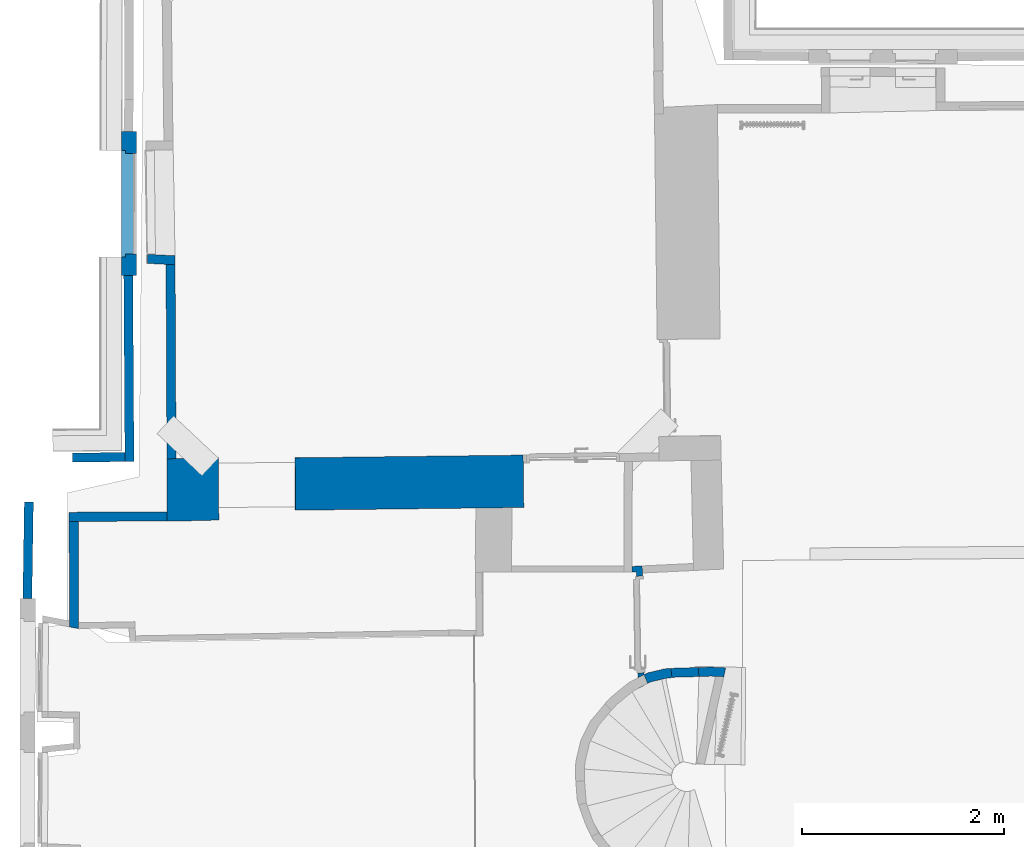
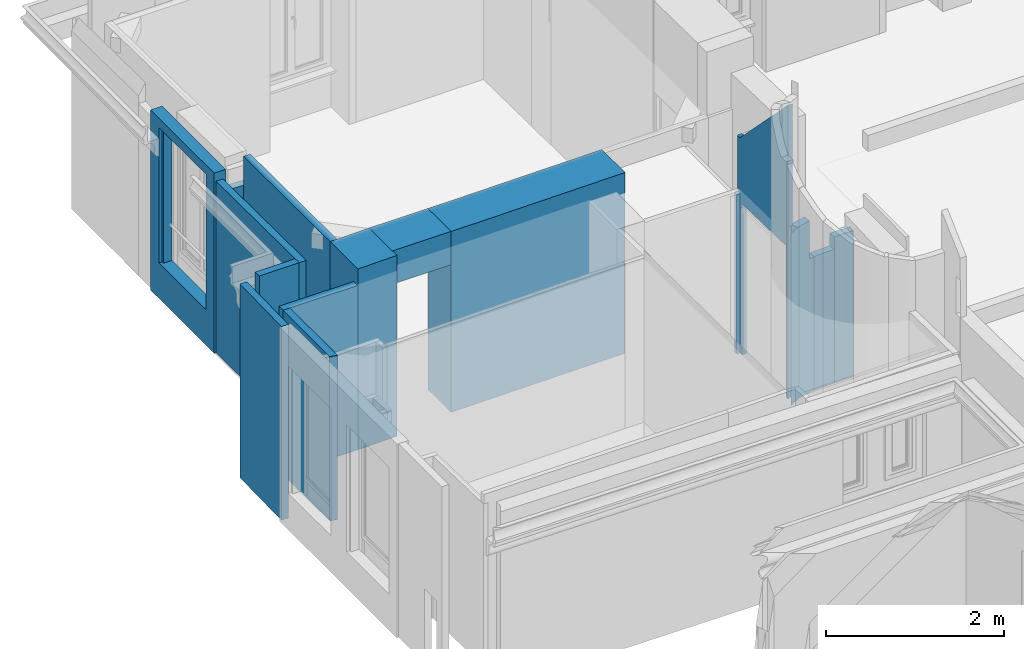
# One storey, part 11 of 72: 15 walls, 3 openings.
"""IFC2X3 building model written with IfcOpenShell, lengths in centimetres."""

from ifc_helpers import new_model, entity, si_unit, converted_unit, direction, frame, origin, origin_with_axes, origin_2d_with_axis, place, context, subcontext, project, spatial, polyline, rectangle, outline, extrude, clip, bounded_halfspace, faceted_brep, shape, material, layer, layer_set, layer_usage, type_object, element, save


model = new_model("IFC2X3")

# Units and contexts
model_context = context("Model", 3, precision=0.0001, world=origin(), true_north=direction((0.225632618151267, 0.974212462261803, 0.0)))
body_context = subcontext(model_context, "Body", "Model", "MODEL_VIEW")
footprint_context = subcontext(model_context, "FootPrint", "Model", "MODEL_VIEW")
profile_context = subcontext(model_context, "Profile", "Model", "MODEL_VIEW")
ifc_project = project(units=[si_unit("LENGTHUNIT", "METRE", prefix="CENTI"), si_unit("AREAUNIT", "SQUARE_METRE", prefix="CENTI"), si_unit("VOLUMEUNIT", "CUBIC_METRE", prefix="CENTI"), converted_unit("PLANEANGLEUNIT", "DEGREE", entity("IfcRatioMeasure", 0.0174532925), si_unit("PLANEANGLEUNIT", "RADIAN"), dimensions=[0, 0, 0, 0, 0, 0, 0])], contexts=[model_context])

# Site, building, storey
site_placement = place(None, origin_with_axes())
site = spatial("IfcSite", under=ifc_project, at=site_placement, Name="Default Site", CompositionType="ELEMENT")
building_placement = place(site_placement, origin_with_axes())
building = spatial("IfcBuilding", under=site, at=building_placement, Name="Default Building", CompositionType="ELEMENT")
storey_placement = place(building_placement, frame((0.0, 0.0, 853.910374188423), z_axis=(0.0, 0.0, 1.0), x_axis=(1.0, 0.0, 0.0)))
storey = spatial("IfcBuildingStorey", under=building, at=storey_placement, Name="Niveau 2", CompositionType="ELEMENT", Elevation=853.910374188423)

# Walls
ifc_material = material(Name="<aucun>")
ifc_layer_1 = layer(ifc_material, 9.0)
ifc_layer_set_1 = layer_set([ifc_layer_1], Name="default")
ifc_layer_usage_1 = layer_usage(ifc_layer_set_1, "AXIS2", "POSITIVE", -4.5)
wall_type_1 = type_object("IfcWallType", Name="default 90", PredefinedType="NOTDEFINED", material=ifc_layer_set_1)
wall_1_placement = place(storey_placement, frame((-1251.93598353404, 212.431751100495, -1.95399252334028e-11), z_axis=(0.0, 0.0, 1.0), x_axis=(-0.00651672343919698, 0.999978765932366, 0.0)))
element("IfcWallStandardCase", 1, at=wall_1_placement, inside=storey, type_object=wall_type_1, material=ifc_layer_usage_1, Name="Enveloppe 465458", context=body_context, shape_type="SweptSolid", body=[
    extrude(outline(polyline([(175.481486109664, 4.50000000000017), (-9.00000255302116, 4.49999999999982), (-8.99322358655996, -4.50000000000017), (175.41465082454, -4.49999999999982), (175.481486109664, 4.50000000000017)])), frame((0.0, 0.0, 2.00728322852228e-11), z_axis=(0.0, 0.0, 1.0), x_axis=(1.0, 0.0, 0.0)), (0.0, 0.0, 1.0), 234.999999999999),
])
ifc_layer_usage_2 = layer_usage(ifc_layer_set_1, "AXIS2", "POSITIVE", -4.5)
wall_2_placement = place(storey_placement, frame((-1308.29371832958, 207.525294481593, -1.95399252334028e-11), z_axis=(0.0, 0.0, 1.0), x_axis=(0.999973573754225, 0.00726992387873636, 0.0)))
element("IfcWallStandardCase", 2, at=wall_2_placement, inside=storey, type_object=wall_type_1, material=ifc_layer_usage_2, Name="Enveloppe 465557", context=body_context, shape_type="SweptSolid", body=[
    extrude(rectangle(XDim=51.8923526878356, YDim=9.00000000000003, at=origin_2d_with_axis()), frame((25.9389610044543, 2.22044604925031e-13, 1.97175609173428e-11), z_axis=(0.0, 0.0, 1.0), x_axis=(1.0, 9.62945001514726e-15, 0.0)), (0.0, 0.0, 1.0), 234.999999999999),
])
ifc_layer_usage_3 = layer_usage(ifc_layer_set_1, "AXIS2", "POSITIVE", -4.5)
wall_3_placement = place(storey_placement, frame((-1353.18737963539, 67.6854363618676, -1.95399252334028e-11), z_axis=(0.0, 0.0, 1.0), x_axis=(0.0153470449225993, 0.999882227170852, 0.0)))
element("IfcWallStandardCase", 3, at=wall_3_placement, inside=storey, type_object=wall_type_1, material=ifc_layer_usage_3, Name="Enveloppe 465560", context=body_context, shape_type="SweptSolid", body=[
    extrude(rectangle(XDim=95.506273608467, YDim=8.99999999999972, at=origin_2d_with_axis()), frame((47.8456041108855, -1.77635683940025e-13, 1.95399252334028e-11), z_axis=(0.0, 0.0, 1.0), x_axis=(1.0, 1.01307850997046e-15, 0.0)), (0.0, 0.0, 1.0), 265.06162581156),
])
ifc_layer_usage_4 = layer_usage(ifc_layer_set_1, "AXIS2", "POSITIVE", -4.5)
wall_4_placement = place(storey_placement, frame((-1307.04795892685, 43.6024883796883, 1.4210854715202e-12), z_axis=(0.0, 0.0, 1.0), x_axis=(-0.00131156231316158, 0.999999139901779, 0.0)))
element("IfcWallStandardCase", 4, at=wall_4_placement, inside=storey, type_object=wall_type_1, material=ifc_layer_usage_4, Name="Enveloppe 175458", context=body_context, shape_type="SweptSolid", body=[
    extrude(outline(polyline([(100.57424873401, 4.50000000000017), (-4.18508499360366, 4.49999999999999), (-5.92331710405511, -4.49999999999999), (100.578192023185, -4.50000000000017), (100.57424873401, 4.50000000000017)])), origin_with_axes(), (0.0, 0.0, 1.0), 224.999999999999),
])
ifc_layer_usage_5 = layer_usage(ifc_layer_set_1, "AXIS2", "POSITIVE", -4.5)
wall_5_placement = place(storey_placement, frame((-1206.89089465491, 403.230010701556, 1.4210854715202e-12), z_axis=(0.0, 0.0, 1.0), x_axis=(-0.998741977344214, 0.0501444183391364, 0.0)))
element("IfcWallStandardCase", 5, at=wall_5_placement, inside=storey, type_object=wall_type_1, material=ifc_layer_usage_5, Name="Enveloppe 170929", context=body_context, shape_type="SweptSolid", body=[
    extrude(outline(polyline([(27.4683223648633, -4.49673180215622), (26.912696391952, 4.4999999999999), (-0.527595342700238, 4.49999999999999), (-0.033914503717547, -4.49999999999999), (27.4683223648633, -4.49673180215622)])), frame((0.0, 0.0, -3.5527136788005e-13), z_axis=(0.0, 0.0, 1.0), x_axis=(1.0, 0.0, 0.0)), (0.0, 0.0, 1.0), 208.0),
])
ifc_layer_usage_6 = layer_usage(ifc_layer_set_1, "AXIS2", "POSITIVE", -4.5)
wall_6_placement = place(storey_placement, frame((-1210.18826970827, 204.153906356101, 1.4210854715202e-12), z_axis=(0.0, 0.0, 1.0), x_axis=(-0.00463303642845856, 0.999989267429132, 0.0)))
element("IfcWallStandardCase", 6, at=wall_6_placement, inside=storey, type_object=wall_type_1, material=ifc_layer_usage_6, Name="Enveloppe 170989", context=body_context, shape_type="Clipping", body=[
    clip(clip(extrude(outline(polyline([(195.030229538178, 4.50000000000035), (2.00936268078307, 4.49999999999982), (2.1991618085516, -4.50000000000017), (195.030229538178, -4.49999999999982), (195.030229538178, 4.50000000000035)])), frame((0.0, 0.0, -8.88178419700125e-13), z_axis=(0.0, 0.0, 1.0), x_axis=(1.0, 0.0, 0.0)), (0.0, 0.0, 1.0), 247.499999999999), bounded_halfspace(frame((195.030229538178, -4.49999999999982, 208.0), z_axis=(0.0, 0.0, 1.0), x_axis=(-1.0, 4.60343568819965e-14, 0.0)), True, frame((195.030229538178, -4.49999999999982, 208.0), z_axis=(0.0, 0.0, 1.0), x_axis=(1.0, 0.0, 0.0)), polyline([(-0.49368083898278, 1.77635683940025e-13), (1.77635683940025e-13, 9.00000000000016), (8.88178419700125e-14, -1.77635683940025e-13), (-0.49368083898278, 1.77635683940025e-13)]))), bounded_halfspace(frame((172.827004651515, 2.21719963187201, 208.999999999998), z_axis=(0.0, 0.0, -1.0), x_axis=(-0.999999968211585, -0.000252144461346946, 0.0)), True, frame((172.827004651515, 2.21719963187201, 208.999999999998), z_axis=(0.0, 0.0, 1.0), x_axis=(1.0, 0.0, 0.0)), polyline([(-25.7479031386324, -0.00649219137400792), (-0.0241717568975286, -0.247229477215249), (4.44089209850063e-14, 0.0), (-25.7479031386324, -0.00649219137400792)]))),
])
ifc_layer_usage_7 = layer_usage(ifc_layer_set_1, "AXIS2", "POSITIVE", -4.5)
wall_7_placement = place(storey_placement, frame((-1311.70093378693, 148.670718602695, 1.4210854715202e-12), z_axis=(0.0, 0.0, 1.0), x_axis=(0.999998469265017, 0.00174970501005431, 0.0)))
element("IfcWallStandardCase", 7, at=wall_7_placement, inside=storey, type_object=wall_type_1, material=ifc_layer_usage_7, Name="Enveloppe 171171", context=body_context, shape_type="SweptSolid", body=[
    extrude(rectangle(XDim=97.0964109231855, YDim=9.00000086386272, at=origin_2d_with_axis()), frame((48.5633727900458, 1.55431223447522e-13, -3.5527136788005e-13), z_axis=(0.0, 0.0, 1.0), x_axis=(1.0, 3.10623922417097e-15, 0.0)), (0.0, 0.0, 1.0), 224.999999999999),
])

# Wall, opening
ifc_layer_2 = layer(ifc_material, 6.0)
ifc_layer_set_2 = layer_set([ifc_layer_2], Name="default")
ifc_layer_usage_8 = layer_usage(ifc_layer_set_2, "AXIS2", "POSITIVE", -3.0)
wall_type_2 = type_object("IfcWallType", Name="default 60", PredefinedType="NOTDEFINED", material=ifc_layer_set_2)
wall_8_placement = place(storey_placement, frame((-744.302139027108, -10.5297326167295, 1.4210854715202e-12), z_axis=(0.0, 0.0, 1.0), x_axis=(-0.0149497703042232, 0.999888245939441, 0.0)))
solid = clip(clip(clip(clip(clip(clip(clip(clip(extrude(outline(polyline([(104.583123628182, 7.38163685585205), (104.52430405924, 3.00000000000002), (-0.583966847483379, 3.00000000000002), (0.0, 1.84837923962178), (2.77555756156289e-15, -3.00000000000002), (110.444300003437, -3.00000000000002), (110.52484465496, 3.00000000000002), (110.246339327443, 3.00000000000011), (110.10617780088, 7.28036396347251), (104.583123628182, 7.38163685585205)])), frame((0.0, 0.0, -1.06581410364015e-12), z_axis=(0.0, 0.0, 1.0), x_axis=(1.0, 0.0, 0.0)), (0.0, 0.0, 1.0), 402.104750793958), bounded_halfspace(frame((110.444300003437, -3.00000000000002, 218.5), z_axis=(0.0, 0.0, 1.0), x_axis=(-0.0392157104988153, 0.99923076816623, 0.0)), True, frame((110.444300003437, -3.00000000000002, 218.5), z_axis=(0.0, 0.0, 1.0), x_axis=(1.0, 0.0, 0.0)), polyline([(-0.197960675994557, 6.00000000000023), (0.0805446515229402, 6.00000000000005), (2.22044604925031e-14, 0.0), (-0.197960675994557, 6.00000000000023)]))), bounded_halfspace(frame((110.435309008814, -2.7709061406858, 218.5), z_axis=(0.0, 0.0, 1.0), x_axis=(0.0392157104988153, -0.99923076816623, 0.0)), True, frame((110.435309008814, -2.7709061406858, 218.5), z_axis=(0.0, 0.0, 1.0), x_axis=(1.0, 0.0, 0.0)), polyline([(-5.91100494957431, -0.229093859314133), (-5.91100494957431, -0.193557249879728), (4.44089209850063e-14, 0.0), (0.00899099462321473, -0.229093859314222), (-5.91100494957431, -0.229093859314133)]))), bounded_halfspace(frame((104.52430405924, -2.99999999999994, 218.5), z_axis=(0.0, 0.0, 1.0), x_axis=(-1.0, -1.23340573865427e-13, 0.0)), True, frame((104.52430405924, -2.99999999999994, 218.5), z_axis=(0.0, 0.0, 1.0), x_axis=(1.0, 0.0, 0.0)), polyline([(-1.08524518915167, -8.88178419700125e-14), (4.44089209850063e-14, 0.0355366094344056), (4.44089209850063e-14, 0.0), (-1.08524518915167, -8.88178419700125e-14)]))), bounded_halfspace(frame((2.45852874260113, -3.00000000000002, 234.999999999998), z_axis=(0.0, 0.0, 1.0), x_axis=(-1.0, -2.56382241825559e-12, 0.0)), True, frame((2.45852874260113, -3.00000000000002, 234.999999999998), z_axis=(0.0, 0.0, 1.0), x_axis=(1.0, 0.0, 0.0)), polyline([(-2.45852874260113, 0.0), (-2.45852874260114, 4.8483792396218), (1.38777878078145e-15, 0.0), (-2.45852874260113, 0.0)]))), bounded_halfspace(frame((-1.38777878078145e-15, 3.00000000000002, 402.104750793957), z_axis=(-0.716643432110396, -1.52655665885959e-16, -0.697439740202), x_axis=(-1.54390389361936e-16, -1.0, 0.0)), True, frame((-1.38777878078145e-15, 3.00000000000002, 402.104750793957), z_axis=(0.0, 0.0, 1.0), x_axis=(1.0, 0.0, 0.0)), polyline([(0.0, -1.15162076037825), (2.45852874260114, -6.00000000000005), (103.439058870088, -6.00000000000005), (104.52430405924, -5.96446339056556), (104.52430405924, 8.88178419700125e-14), (0.0, 8.88178419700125e-14), (0.0, -1.15162076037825)]))), bounded_halfspace(frame((-1.38777878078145e-15, 1.84837923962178, 234.999999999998), z_axis=(0.0, 0.0, -1.0), x_axis=(1.54390389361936e-16, 1.0, 0.0)), True, frame((-1.38777878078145e-15, 1.84837923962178, 234.999999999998), z_axis=(0.0, 0.0, 1.0), x_axis=(1.0, 0.0, 0.0)), polyline([(-0.583966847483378, 1.15162076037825), (0.0, 0.0), (0.0, 1.15162076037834), (-0.583966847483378, 1.15162076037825)]))), bounded_halfspace(frame((110.246339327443, 3.00000000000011, 294.70241668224), z_axis=(0.0, 0.0, -1.0), x_axis=(-1.0, -1.50834206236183e-14, 0.0)), True, frame((110.246339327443, 3.00000000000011, 294.70241668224), z_axis=(0.0, 0.0, 1.0), x_axis=(1.0, 0.0, 0.0)), polyline([(-5.72203526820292, -5.96446339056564), (0.188969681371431, -5.77090614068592), (2.22044604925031e-14, 8.88178419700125e-14), (-5.72203526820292, 0.0), (-5.72203526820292, -5.96446339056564)]))), bounded_halfspace(frame((104.583123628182, 7.38163685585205, 218.5), z_axis=(0.0, 0.0, -1.0), x_axis=(-0.0134228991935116, -0.999909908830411, 0.0)), True, frame((104.583123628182, 7.38163685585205, 218.5), z_axis=(0.0, 0.0, 1.0), x_axis=(1.0, 0.0, 0.0)), polyline([(-0.0588195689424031, -4.38163685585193), (5.66321569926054, -4.38163685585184), (5.52305417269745, -0.101272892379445), (2.22044604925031e-14, 0.0), (-0.0588195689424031, -4.38163685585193)])))
wall_8 = element("IfcWallStandardCase", 8, at=wall_8_placement, inside=storey, type_object=wall_type_2, material=ifc_layer_usage_8, Name="Enveloppe 170343", context=body_context, shape_type="Clipping", body=[
    clip(clip(clip(clip(solid, bounded_halfspace(frame((110.52484465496, 3.00000000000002, 294.70241668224), z_axis=(0.0, 0.0, -1.0), x_axis=(-1.0, 2.80477030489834e-13, 0.0)), True, frame((110.52484465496, 3.00000000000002, 294.70241668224), z_axis=(0.0, 0.0, 1.0), x_axis=(1.0, 0.0, 0.0)), polyline([(-0.278505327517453, 1.77635683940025e-13), (-0.0805446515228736, -6.00000000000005), (4.44089209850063e-14, 0.0), (-0.278505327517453, 1.77635683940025e-13)]))), bounded_halfspace(frame((104.52430405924, -2.96446339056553, 294.70241668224), z_axis=(0.0, 0.0, -1.0), x_axis=(-4.9212370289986e-13, -1.0, 0.0)), True, frame((104.52430405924, -2.96446339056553, 294.70241668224), z_axis=(0.0, 0.0, 1.0), x_axis=(1.0, 0.0, 0.0)), polyline([(4.44089209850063e-14, -0.0355366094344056), (5.91999594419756, -0.0355366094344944), (5.91100494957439, 0.193557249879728), (4.44089209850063e-14, 0.0), (4.44089209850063e-14, -0.0355366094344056)]))), bounded_halfspace(frame((103.439058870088, -3.00000000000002, 295.81754361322), z_axis=(-0.716643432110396, -1.52655665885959e-16, -0.697439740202), x_axis=(-0.697257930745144, -0.0228318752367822, 0.716456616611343)), True, frame((103.439058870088, -3.00000000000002, 295.81754361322), z_axis=(0.0, 0.0, 1.0), x_axis=(1.0, 0.0, 0.0)), polyline([(2.22044604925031e-14, 0.0), (1.08524518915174, 8.88178419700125e-14), (1.08524518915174, 0.0355366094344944), (2.22044604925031e-14, 0.0)]))), bounded_halfspace(frame((-1.38777878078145e-15, 1.84837923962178, 402.104750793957), z_axis=(-0.716643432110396, -1.52655665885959e-16, -0.697439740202), x_axis=(3.08780778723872e-16, -1.0, 0.0)), True, frame((-1.38777878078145e-15, 1.84837923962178, 402.104750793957), z_axis=(0.0, 0.0, 1.0), x_axis=(1.0, 0.0, 0.0)), polyline([(4.16333634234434e-15, -4.8483792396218), (2.45852874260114, -4.8483792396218), (0.0, 0.0), (4.16333634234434e-15, -4.8483792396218)]))),
])
opening_1_placement = place(wall_8_placement, frame((4.42519617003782, 0.0, -3.5527136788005e-13), z_axis=(0.0, 0.0, 1.0), x_axis=(1.0, 2.09901540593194e-16, 0.0)))
cartesian_point_1 = entity("IfcCartesianPoint", [1.31838984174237e-14, 0.0, 207.0])
cartesian_point_2 = entity("IfcCartesianPoint", [95.8094159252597, 3.00000000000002])
element("IfcOpeningElement", 9, at=opening_1_placement, cuts=wall_8, Name="4294966377_11", ObjectType="Opening", shapes=[
    shape(body_context, "Body", "SweptSolid", [extrude(outline(polyline([(1.38777878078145e-14, 207.0), (1.38777878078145e-15, 0.0), (95.8094159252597, 0.0), (95.8094159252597, 207.0), (1.38777878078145e-14, 207.0)])), frame((0.0, 13.0, 0.0), z_axis=(0.0, -1.0, 0.0), x_axis=(1.0, 0.0, 0.0)), (0.0, 0.0, 1.0), 26.0)]),
    shape(profile_context, "Profile", "GeometricCurveSet", [entity("IfcGeometricCurveSet", [entity("IfcPolyline", [cartesian_point_1, entity("IfcCartesianPoint", [6.93889390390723e-16, 0.0, 0.0]), entity("IfcCartesianPoint", [95.8094159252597, 8.88178419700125e-14, 0.0]), entity("IfcCartesianPoint", [95.8094159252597, 8.88178419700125e-14, 207.0]), cartesian_point_1])])]),
    shape(footprint_context, "FootPrint", "GeometricCurveSet", [entity("IfcGeometricCurveSet", [entity("IfcPolyline", [cartesian_point_2, entity("IfcCartesianPoint", [1.38777878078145e-15, 3.00000000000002]), entity("IfcCartesianPoint", [-6.93889390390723e-16, -3.00000000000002]), entity("IfcCartesianPoint", [95.8094159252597, -3.00000000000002]), cartesian_point_2])])]),
])

ifc_layer_3 = layer(ifc_material, 15.0)
ifc_layer_set_3 = layer_set([ifc_layer_3], Name="default")
ifc_layer_usage_9 = layer_usage(ifc_layer_set_3, "AXIS2", "POSITIVE", -7.5)
wall_type_3 = type_object("IfcWallType", Name="default 150", PredefinedType="NOTDEFINED", material=ifc_layer_set_3)
wall_9_placement = place(storey_placement, frame((-1252.3263199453, 387.875409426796, -1.95399252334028e-11), z_axis=(0.0, 0.0, 1.0), x_axis=(0.000909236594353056, 0.999999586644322, 0.0)))
wall_9 = element("IfcWallStandardCase", 10, at=wall_9_placement, inside=storey, type_object=wall_type_3, material=ifc_layer_usage_9, Name="Enveloppe 744796", context=body_context, shape_type="SweptSolid", body=[
    extrude(rectangle(XDim=142.891550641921, YDim=14.9999999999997, at=origin_2d_with_axis()), frame((71.4457753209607, 1.77635683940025e-13, 1.98951966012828e-11), z_axis=(0.0, 0.0, 1.0), x_axis=(1.0, -6.78168458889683e-16, 0.0)), (0.0, 0.0, 1.0), 246.74203441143),
])
opening_2_placement = place(wall_9_placement, frame((18.3750161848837, 0.0, 48.6953602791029), z_axis=(0.0, 0.0, 1.0), x_axis=(1.0, 5.64977752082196e-16, 0.0)))
cartesian_point_3 = entity("IfcCartesianPoint", [0.0, 1.77635683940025e-13, 185.190560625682])
cartesian_point_4 = entity("IfcCartesianPoint", [105.688399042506, 7.49999999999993])
element("IfcOpeningElement", 11, at=opening_2_placement, cuts=wall_9, Name="Baie 745940", ObjectType="Opening", shapes=[
    shape(body_context, "Body", "Brep", [faceted_brep([(-6.57386030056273e-06, 27.4999689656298, 185.190572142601), (105.688418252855, 27.4999689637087, 185.190572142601), (105.688418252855, 27.4999689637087, -1.01327895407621e-05), (-6.57386030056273e-06, 27.4999689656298, -1.01327895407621e-05), (3.000003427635, -27.5000154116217, -1.01327895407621e-05), (102.688383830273, -27.5000154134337, -1.01327895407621e-05), (102.688383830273, -27.5000154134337, 185.190572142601), (3.000003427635, -27.5000154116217, 185.190572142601), (3.00000342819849, 3.50003935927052, 185.190572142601), (3.00000342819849, 3.50003935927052, -1.01327895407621e-05), (2.99999811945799, 3.50003935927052, -1.01327895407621e-05), (2.99999811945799, 3.50003935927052, 185.190572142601), (2.36344711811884e-05, 3.50003935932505, 185.190572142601), (2.36344711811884e-05, 3.50003935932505, -1.01327895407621e-05), (2.36344711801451e-05, 3.49998196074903, -1.01327895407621e-05), (2.36344711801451e-05, 3.49998196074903, 185.190572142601), (2.36349074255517e-05, 27.4999689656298, 185.190572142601), (2.36349074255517e-05, 27.4999689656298, -1.01327895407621e-05), (102.688383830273, -27.4999741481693, -1.01327895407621e-05), (105.688418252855, 27.5000297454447, -1.01327895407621e-05), (105.688400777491, 3.50004269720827, -1.01327895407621e-05), (102.688378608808, 3.49998525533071, -1.01327895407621e-05), (102.688383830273, -27.4999741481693, 185.190572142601), (102.688383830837, 3.49998525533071, -1.01327895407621e-05), (102.688383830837, 3.49998525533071, 185.190572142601), (102.688378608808, 3.49998525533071, 185.190572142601), (105.688400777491, 3.49998525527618, -1.01327895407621e-05), (105.688400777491, 3.49998525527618, 185.190572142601), (105.688400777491, 3.50004269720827, 185.190572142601), (105.688400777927, 27.5000297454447, -1.01327895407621e-05), (105.688400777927, 27.5000297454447, 185.190572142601), (105.688418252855, 27.5000297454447, 185.190572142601)], [[[0, 1, 2, 3]], [[4, 5, 6, 7]], [[4, 7, 8, 9]], [[10, 11, 12, 13]], [[14, 15, 16, 17]], [[18, 4, 10, 14, 3, 19, 20, 21]], [[22, 18, 23, 24]], [[25, 21, 26, 27]], [[28, 20, 29, 30]], [[25, 28, 31, 0, 15, 11, 7, 22]]])]),
    shape(profile_context, "Profile", "GeometricCurveSet", [entity("IfcGeometricCurveSet", [entity("IfcPolyline", [cartesian_point_3, entity("IfcCartesianPoint", [0.0, 1.77635683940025e-13, 0.0]), entity("IfcCartesianPoint", [105.688399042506, 0.0, 0.0]), entity("IfcCartesianPoint", [105.688399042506, 0.0, 185.190560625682]), cartesian_point_3])])]),
    shape(footprint_context, "FootPrint", "GeometricCurveSet", [entity("IfcGeometricCurveSet", [entity("IfcPolyline", [cartesian_point_4, entity("IfcCartesianPoint", [0.0, 7.50000000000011]), entity("IfcCartesianPoint", [-8.88178419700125e-14, -7.49999999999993]), entity("IfcCartesianPoint", [105.688399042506, -7.49999999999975]), cartesian_point_4])])]),
])

# Walls
ifc_layer_4 = layer(ifc_material, 62.0)
ifc_layer_set_4 = layer_set([ifc_layer_4], Name="default")
ifc_layer_usage_10 = layer_usage(ifc_layer_set_4, "AXIS2", "POSITIVE", -31.0)
wall_type_4 = type_object("IfcWallType", Name="default 620", PredefinedType="NOTDEFINED", material=ifc_layer_set_4)
wall_10_placement = place(storey_placement, frame((-1209.05295596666, 175.277346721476, 1.4210854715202e-12), z_axis=(0.0, 0.0, 1.0), x_axis=(0.999669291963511, 0.0257158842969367, 0.0)))
element("IfcWallStandardCase", 12, at=wall_10_placement, inside=storey, type_object=wall_type_4, material=ifc_layer_usage_10, Name="Enveloppe 171080", context=body_context, shape_type="Clipping", body=[
    clip(clip(extrude(outline(polyline([(-4.8489860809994, 31.0), (-6.32438196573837, -30.7842515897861), (-6.15203620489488, -30.7886850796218), (-6.15649118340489, -31.0), (45.1426348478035, -31.0), (45.1426348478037, -21.0149409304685), (46.3889042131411, 30.9701224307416), (45.1426348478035, 31.0), (-4.8489860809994, 31.0)])), frame((0.0, 0.0, -8.88178419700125e-13), z_axis=(0.0, 0.0, 1.0), x_axis=(1.0, 0.0, 0.0)), (0.0, 0.0, 1.0), 247.499999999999), bounded_halfspace(frame((-6.15649118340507, -31.0, 224.999999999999), z_axis=(0.0, 0.0, 1.0), x_axis=(0.0210841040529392, 0.999777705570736, 0.0)), True, frame((-6.15649118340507, -31.0, 224.999999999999), z_axis=(0.0, 0.0, 1.0), x_axis=(1.0, 0.0, 0.0)), polyline([(0.0, 0.0), (0.00446273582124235, 0.211616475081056), (8.83152386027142, 2.22044604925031e-14), (0.0, 0.0)]))), bounded_halfspace(frame((-6.32438196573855, -30.7842515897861, 224.999999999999), z_axis=(0.0, 0.0, -1.0), x_axis=(0.999712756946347, -0.0239667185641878, 0.0)), True, frame((-6.32438196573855, -30.7842515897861, 224.999999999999), z_axis=(0.0, 0.0, 1.0), x_axis=(1.0, 0.0, 0.0)), polyline([(0.0, 0.0), (0.172353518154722, -0.00413193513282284), (1.43303027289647, 59.7753355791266), (0.0, 0.0)]))),
])
ifc_layer_usage_11 = layer_usage(ifc_layer_set_1, "AXIS2", "POSITIVE", -4.5)
wall_type_5 = type_object("IfcWallType", Name="default 90", PredefinedType="NOTDEFINED", material=ifc_layer_set_1)
wall_11_placement = place(storey_placement, frame((-720.550273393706, -7.24037054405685, 0.0), z_axis=(0.0, 0.0, 1.0), x_axis=(0.986676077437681, 0.162697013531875, 0.0)))
element("IfcWallStandardCase", 13, at=wall_11_placement, inside=storey, type_object=wall_type_5, material=ifc_layer_usage_11, Name="Enveloppe courbe 170398", context=body_context, shape_type="SweptSolid", body=[
    extrude(outline(polyline([(6.70467204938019, 4.22915173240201), (6.31800804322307, -4.7552282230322), (11.8620377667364, -4.9791900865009), (32.8869769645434, -8.20973215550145), (33.5569733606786, 0.764881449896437), (12.5879980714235, 3.99148333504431), (6.70467204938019, 4.22915173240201)])), frame((0.0, 0.0, 1.77635683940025e-13), z_axis=(0.0, 0.0, 1.0), x_axis=(1.0, 0.0, 0.0)), (0.0, 0.0, 1.0), 183.0),
])
ifc_layer_usage_12 = layer_usage(ifc_layer_set_1, "AXIS2", "POSITIVE", -4.5)
wall_12_placement = place(storey_placement, frame((-661.729943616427, -5.63148304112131, 0.0), z_axis=(0.0, 0.0, 1.0), x_axis=(-0.99509404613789, 0.0989335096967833, 0.0)))
element("IfcWallStandardCase", 14, at=wall_12_placement, inside=storey, type_object=wall_type_5, material=ifc_layer_usage_12, Name="Enveloppe courbe 170424", context=body_context, shape_type="Clipping", body=[
    clip(clip(extrude(outline(polyline([(26.3065101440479, -2.00618640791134), (24.6153380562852, 6.83349327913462), (12.9599679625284, 5.14266399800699), (0.0, 4.49999999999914), (-1.05300775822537, -4.46026311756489), (8.88178419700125e-14, -4.49999999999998), (13.8503695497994, -3.81318241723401), (26.3065101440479, -2.00618640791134)])), origin_with_axes(), (0.0, 0.0, 1.0), 200.0), bounded_halfspace(frame((26.1637965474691, -2.02688968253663, 183.0), z_axis=(0.0, 0.0, 1.0), x_axis=(-0.186897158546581, 0.982379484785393, 0.0)), True, frame((26.1637965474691, -2.02688968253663, 183.0), z_axis=(0.0, 0.0, 1.0), x_axis=(1.0, 0.0, 0.0)), polyline([(-1.68199742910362, 8.84101064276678), (-1.54845849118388, 8.86038296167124), (0.142713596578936, 0.0207032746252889), (0.0, -1.11022302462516e-14), (-1.68199742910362, 8.84101064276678)]))), bounded_halfspace(frame((-1.05300775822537, -4.46026311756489, 197.0), z_axis=(0.0, 0.0, -1.0), x_axis=(0.99928873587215, -0.0377097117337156, 0.0)), True, frame((-1.05300775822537, -4.46026311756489, 197.0), z_axis=(0.0, 0.0, 1.0), x_axis=(1.0, 0.0, 0.0)), polyline([(0.0, 0.0), (1.05300775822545, -0.0397368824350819), (1.05300775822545, 8.96026311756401), (0.0, 0.0)]))),
])

# Wall, opening
ifc_layer_5 = layer(ifc_material, 52.0)
ifc_layer_set_5 = layer_set([ifc_layer_5], Name="default")
ifc_layer_usage_13 = layer_usage(ifc_layer_set_5, "AXIS2", "POSITIVE", -26.0)
wall_type_6 = type_object("IfcWallType", Name="default 520", PredefinedType="NOTDEFINED", material=ifc_layer_set_5)
wall_13_placement = place(storey_placement, frame((-1164.67695023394, 181.428017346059, 1.4210854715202e-12), z_axis=(0.0, 0.0, 1.0), x_axis=(0.999998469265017, 0.00174970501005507, 0.0)))
wall_13 = element("IfcWallStandardCase", 15, at=wall_13_placement, inside=storey, type_object=wall_type_6, material=ifc_layer_usage_13, Name="Enveloppe 171969", context=body_context, shape_type="SweptSolid", body=[
    extrude(outline(polyline([(1.24662745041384, 26.0), (1.24662745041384, -26.0), (77.3264030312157, -25.9999999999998), (77.3264030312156, 25.643982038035), (112.526247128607, 26.0000000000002), (1.24662745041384, 26.0)])), frame((0.0, 0.0, -3.5527136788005e-13), z_axis=(0.0, 0.0, 1.0), x_axis=(1.0, 0.0, 0.0)), (0.0, 0.0, 1.0), 247.499999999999),
])
opening_3_placement = place(wall_13_placement, frame((1.1231849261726, 2.8421709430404e-14, -1.77635683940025e-15), z_axis=(0.0, 0.0, 1.0), x_axis=(-1.0, -1.90819582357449e-15, 0.0)))
cartesian_point_5 = entity("IfcCartesianPoint", [0.0, 2.22044604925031e-14, 202.0])
cartesian_point_6 = entity("IfcCartesianPoint", [-76.0640920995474, -26.0])
element("IfcOpeningElement", 16, at=opening_3_placement, cuts=wall_13, Name="Baie 171995", ObjectType="Opening", shapes=[
    shape(body_context, "Body", "SweptSolid", [extrude(outline(polyline([(0.0, 202.0), (0.0, 0.0), (76.0640920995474, 0.0), (76.0640920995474, 202.0), (0.0, 202.0)])), frame((0.0, -36.0, 0.0), z_axis=(0.0, 1.0, 0.0), x_axis=(-1.0, 0.0, 0.0)), (0.0, 0.0, 1.0), 72.0)]),
    shape(profile_context, "Profile", "GeometricCurveSet", [entity("IfcGeometricCurveSet", [entity("IfcPolyline", [cartesian_point_5, entity("IfcCartesianPoint", [0.0, 2.22044604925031e-14, 0.0]), entity("IfcCartesianPoint", [-76.0640920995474, 2.22044604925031e-14, 0.0]), entity("IfcCartesianPoint", [-76.0640920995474, 2.22044604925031e-14, 202.0]), cartesian_point_5])])]),
    shape(footprint_context, "FootPrint", "GeometricCurveSet", [entity("IfcGeometricCurveSet", [entity("IfcPolyline", [cartesian_point_6, entity("IfcCartesianPoint", [0.0, -26.0]), entity("IfcCartesianPoint", [1.77635683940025e-13, 26.0]), entity("IfcCartesianPoint", [-76.0640920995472, 26.0]), cartesian_point_6])])]),
])

# Walls
ifc_layer_usage_14 = layer_usage(ifc_layer_set_5, "AXIS2", "POSITIVE", -26.0)
wall_14_placement = place(storey_placement, frame((-1087.08708984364, 181.209088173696, 1.4210854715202e-12), z_axis=(0.0, 0.0, 1.0), x_axis=(0.999929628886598, 0.0118632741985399, 0.0)))
element("IfcWallStandardCase", 17, at=wall_14_placement, inside=storey, type_object=wall_type_6, material=ifc_layer_usage_14, Name="Enveloppe 171447", context=body_context, shape_type="SweptSolid", body=[
    extrude(outline(polyline([(197.382675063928, 25.9999999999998), (178.695345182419, 25.9999999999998), (-1.06581410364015e-12, 26.0), (-0.522310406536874, -25.6413407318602), (34.9386822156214, -26.0), (178.695345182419, -26.0000000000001), (197.382675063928, -26.0000000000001), (226.210554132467, -26.0000000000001), (226.210554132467, 18.1566429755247), (226.186199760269, 26.0), (197.382675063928, 25.9999999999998)])), frame((0.0, 0.0, -3.5527136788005e-13), z_axis=(0.0, 0.0, 1.0), x_axis=(1.0, 0.0, 0.0)), (0.0, 0.0, 1.0), 247.499999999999),
])
ifc_layer_6 = layer(ifc_material, 9.5)
ifc_layer_set_6 = layer_set([ifc_layer_6], Name="default")
ifc_layer_usage_15 = layer_usage(ifc_layer_set_6, "AXIS2", "POSITIVE", -4.75)
wall_type_7 = type_object("IfcWallType", Name="default 95", PredefinedType="NOTDEFINED", material=ifc_layer_set_6)
wall_15_placement = place(storey_placement, frame((-753.710980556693, -19.6710780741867, 0.0), z_axis=(0.0, 0.0, 1.0), x_axis=(0.82209752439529, 0.56934669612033, 0.0)))
element("IfcWallStandardCase", 18, at=wall_15_placement, inside=storey, type_object=wall_type_7, material=ifc_layer_usage_15, Name="Enveloppe courbe 162672", context=body_context, shape_type="Clipping", body=[
    clip(extrude(outline(polyline([(-2.48689957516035e-12, -4.75000000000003), (18.2385007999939, -7.17372977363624), (32.4126817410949, -12.7276725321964), (38.0134995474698, -15.6624990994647), (42.2083428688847, -7.70813666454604), (40.6124509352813, -6.43334434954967), (36.822003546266, -4.31293063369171), (20.7196105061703, 1.99655346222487), (16.7933158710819, 2.51832207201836), (14.8163245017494, -6.55853806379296), (-2.48689957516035e-12, -4.75000000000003)])), frame((0.0, 0.0, 3.5527136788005e-13), z_axis=(0.0, 0.0, 1.0), x_axis=(1.0, 0.0, 0.0)), (0.0, 0.0, 1.0), 234.999999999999), bounded_halfspace(frame((38.0134995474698, -15.6624990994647, 183.0), z_axis=(0.0, 0.0, -1.0), x_axis=(0.466472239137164, 0.884535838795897, 0.0)), True, frame((38.0134995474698, -15.6624990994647, 183.0), z_axis=(0.0, 0.0, 1.0), x_axis=(1.0, 0.0, 0.0)), polyline([(-5.60081780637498, 2.93482656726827), (0.0, -4.44089209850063e-14), (4.19484332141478, 7.95436243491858), (2.59895138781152, 9.22915474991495), (-1.19149600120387, 11.3495684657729), (-5.60081780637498, 2.93482656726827)]))),
])

save(model, "model.ifc")
